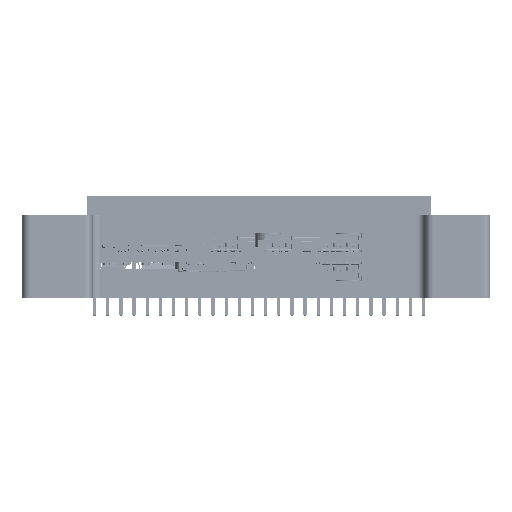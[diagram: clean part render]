
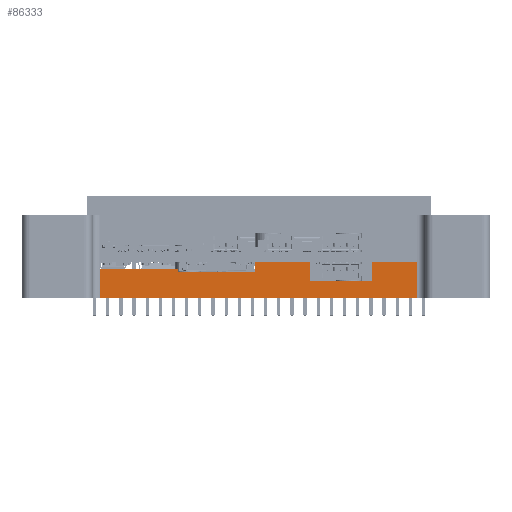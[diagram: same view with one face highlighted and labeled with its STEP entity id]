
A CAD part, front view. The second image highlights one B-rep face of the part: STEP entity #86333.
In plain terms, the highlighted planar face has unit normal (0, -1, 0).
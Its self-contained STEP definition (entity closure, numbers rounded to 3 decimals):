
#12788 = CARTESIAN_POINT ( 'NONE',  ( 14.989, 4., 5.7 ) ) ;
#22256 = DIRECTION ( 'NONE',  ( 0., 0., -1. ) ) ;
#24555 = ORIENTED_EDGE ( 'NONE', *, *, #117124, .F. ) ;
#38547 = VECTOR ( 'NONE', #230905, 1000. ) ;
#38948 = EDGE_LOOP ( 'NONE', ( #575782, #219983, #276426, #24555, #571805, #520301, #408309, #456044, #463013, #610357, #401543, #535431 ) ) ;
#46031 = CARTESIAN_POINT ( 'NONE',  ( 76.291, 4., 0. ) ) ;
#46801 = CARTESIAN_POINT ( 'NONE',  ( 0., 4., 0. ) ) ;
#55549 = LINE ( 'NONE', #289952, #445712 ) ;
#61694 = AXIS2_PLACEMENT_3D ( 'NONE', #166984, #591871, #160857 ) ;
#66580 = CARTESIAN_POINT ( 'NONE',  ( 67.49, 4., 3.3 ) ) ;
#71675 = VECTOR ( 'NONE', #208156, 1000. ) ;
#86333 = ADVANCED_FACE ( 'NONE', ( #598076 ), #210815, .F. ) ;
#117124 = EDGE_CURVE ( 'NONE', #305397, #162533, #332417, .T. ) ;
#130723 = CARTESIAN_POINT ( 'NONE',  ( 67.49, 4., 7. ) ) ;
#143682 = LINE ( 'NONE', #46801, #382116 ) ;
#144839 = CARTESIAN_POINT ( 'NONE',  ( 44.989, 4., 5. ) ) ;
#150089 = EDGE_CURVE ( 'NONE', #498396, #383487, #376962, .T. ) ;
#152832 = VERTEX_POINT ( 'NONE', #196656 ) ;
#157166 = EDGE_CURVE ( 'NONE', #493112, #407615, #143682, .T. ) ;
#160857 = DIRECTION ( 'NONE',  ( 1., 0., 0. ) ) ;
#162533 = VERTEX_POINT ( 'NONE', #451031 ) ;
#166984 = CARTESIAN_POINT ( 'NONE',  ( 0., 4., 7. ) ) ;
#196656 = CARTESIAN_POINT ( 'NONE',  ( 55.49, 4., 3.3 ) ) ;
#204286 = VERTEX_POINT ( 'NONE', #550170 ) ;
#208156 = DIRECTION ( 'NONE',  ( 1., 0., 0. ) ) ;
#209221 = CARTESIAN_POINT ( 'NONE',  ( 76.291, 4., 7. ) ) ;
#209851 = LINE ( 'NONE', #306684, #271541 ) ;
#210815 = PLANE ( 'NONE',  #61694 ) ;
#213716 = VECTOR ( 'NONE', #230698, 1000. ) ;
#219983 = ORIENTED_EDGE ( 'NONE', *, *, #498390, .F. ) ;
#220594 = CARTESIAN_POINT ( 'NONE',  ( 55.49, 4., 7. ) ) ;
#230698 = DIRECTION ( 'NONE',  ( 0., 0., 1. ) ) ;
#230905 = DIRECTION ( 'NONE',  ( 0., 0., -1. ) ) ;
#237452 = DIRECTION ( 'NONE',  ( 1., 0., 0. ) ) ;
#237856 = VECTOR ( 'NONE', #473014, 1000. ) ;
#252872 = VECTOR ( 'NONE', #552549, 1000. ) ;
#264324 = LINE ( 'NONE', #407867, #71675 ) ;
#271541 = VECTOR ( 'NONE', #22256, 1000. ) ;
#276426 = ORIENTED_EDGE ( 'NONE', *, *, #335009, .F. ) ;
#289952 = CARTESIAN_POINT ( 'NONE',  ( 0., 4., 7. ) ) ;
#294790 = EDGE_CURVE ( 'NONE', #383487, #465282, #264324, .T. ) ;
#299513 = VERTEX_POINT ( 'NONE', #209221 ) ;
#305397 = VERTEX_POINT ( 'NONE', #12788 ) ;
#306684 = CARTESIAN_POINT ( 'NONE',  ( 29.989, 4., 5.7 ) ) ;
#318272 = LINE ( 'NONE', #465026, #252872 ) ;
#329522 = CARTESIAN_POINT ( 'NONE',  ( 29.989, 4., 5. ) ) ;
#330779 = LINE ( 'NONE', #518222, #38547 ) ;
#332417 = LINE ( 'NONE', #476077, #237856 ) ;
#335009 = EDGE_CURVE ( 'NONE', #162533, #406326, #209851, .T. ) ;
#339830 = DIRECTION ( 'NONE',  ( 1., 0., 0. ) ) ;
#345350 = EDGE_CURVE ( 'NONE', #563939, #299513, #55549, .T. ) ;
#376962 = LINE ( 'NONE', #517602, #446460 ) ;
#382116 = VECTOR ( 'NONE', #237452, 1000. ) ;
#383487 = VERTEX_POINT ( 'NONE', #407214 ) ;
#392506 = VECTOR ( 'NONE', #512119, 1000. ) ;
#401543 = ORIENTED_EDGE ( 'NONE', *, *, #610689, .F. ) ;
#406326 = VERTEX_POINT ( 'NONE', #329522 ) ;
#407214 = CARTESIAN_POINT ( 'NONE',  ( 44.989, 4., 7. ) ) ;
#407615 = VERTEX_POINT ( 'NONE', #46031 ) ;
#407867 = CARTESIAN_POINT ( 'NONE',  ( 0., 4., 7. ) ) ;
#408309 = ORIENTED_EDGE ( 'NONE', *, *, #600253, .F. ) ;
#413108 = LINE ( 'NONE', #66580, #541277 ) ;
#430025 = DIRECTION ( 'NONE',  ( 0., 0., 1. ) ) ;
#440541 = EDGE_CURVE ( 'NONE', #152832, #204286, #413108, .T. ) ;
#443003 = CARTESIAN_POINT ( 'NONE',  ( 67.49, 4., 7. ) ) ;
#445712 = VECTOR ( 'NONE', #339830, 1000. ) ;
#446460 = VECTOR ( 'NONE', #430025, 1000. ) ;
#451031 = CARTESIAN_POINT ( 'NONE',  ( 29.989, 4., 5.7 ) ) ;
#456044 = ORIENTED_EDGE ( 'NONE', *, *, #345350, .F. ) ;
#459109 = LINE ( 'NONE', #549724, #392506 ) ;
#463013 = ORIENTED_EDGE ( 'NONE', *, *, #529677, .F. ) ;
#465026 = CARTESIAN_POINT ( 'NONE',  ( 76.291, 4., 7. ) ) ;
#465282 = VERTEX_POINT ( 'NONE', #220594 ) ;
#473014 = DIRECTION ( 'NONE',  ( 1., 0., 0. ) ) ;
#475676 = VECTOR ( 'NONE', #581968, 1000. ) ;
#476077 = CARTESIAN_POINT ( 'NONE',  ( 14.989, 4., 5.7 ) ) ;
#480366 = EDGE_CURVE ( 'NONE', #305397, #493112, #330779, .T. ) ;
#488254 = CARTESIAN_POINT ( 'NONE',  ( 14.989, 4., 5. ) ) ;
#493112 = VERTEX_POINT ( 'NONE', #564701 ) ;
#498390 = EDGE_CURVE ( 'NONE', #406326, #498396, #569693, .T. ) ;
#498396 = VERTEX_POINT ( 'NONE', #144839 ) ;
#512119 = DIRECTION ( 'NONE',  ( 0., 0., -1. ) ) ;
#517602 = CARTESIAN_POINT ( 'NONE',  ( 44.989, 4., 7. ) ) ;
#518222 = CARTESIAN_POINT ( 'NONE',  ( 14.989, 4., 7. ) ) ;
#520301 = ORIENTED_EDGE ( 'NONE', *, *, #157166, .T. ) ;
#529677 = EDGE_CURVE ( 'NONE', #204286, #563939, #558731, .T. ) ;
#535431 = ORIENTED_EDGE ( 'NONE', *, *, #294790, .F. ) ;
#541277 = VECTOR ( 'NONE', #597501, 1000. ) ;
#549724 = CARTESIAN_POINT ( 'NONE',  ( 55.49, 4., 7. ) ) ;
#550170 = CARTESIAN_POINT ( 'NONE',  ( 67.49, 4., 3.3 ) ) ;
#552549 = DIRECTION ( 'NONE',  ( 0., 0., -1. ) ) ;
#558731 = LINE ( 'NONE', #130723, #213716 ) ;
#563939 = VERTEX_POINT ( 'NONE', #443003 ) ;
#564701 = CARTESIAN_POINT ( 'NONE',  ( 14.989, 4., 0. ) ) ;
#569693 = LINE ( 'NONE', #488254, #475676 ) ;
#571805 = ORIENTED_EDGE ( 'NONE', *, *, #480366, .T. ) ;
#575782 = ORIENTED_EDGE ( 'NONE', *, *, #150089, .F. ) ;
#581968 = DIRECTION ( 'NONE',  ( 1., 0., 0. ) ) ;
#591871 = DIRECTION ( 'NONE',  ( 0., 1., 0. ) ) ;
#597501 = DIRECTION ( 'NONE',  ( 1., 0., 0. ) ) ;
#598076 = FACE_OUTER_BOUND ( 'NONE', #38948, .T. ) ;
#600253 = EDGE_CURVE ( 'NONE', #299513, #407615, #318272, .T. ) ;
#610357 = ORIENTED_EDGE ( 'NONE', *, *, #440541, .F. ) ;
#610689 = EDGE_CURVE ( 'NONE', #465282, #152832, #459109, .T. ) ;
